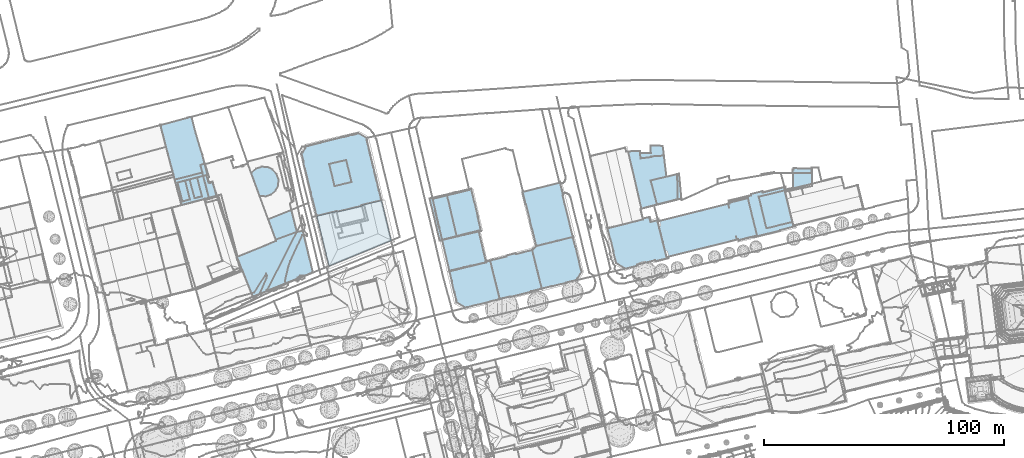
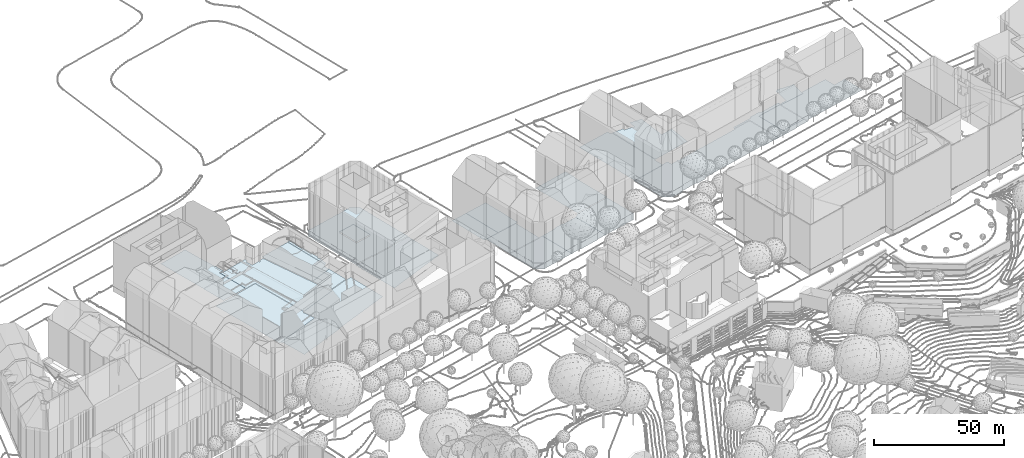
# Not in any storey, part 17 of 494: 16 footings.
"""IFC2X3 model written with IfcOpenShell, lengths in metres."""

from ifc_helpers import new_model, si_unit, frame, origin_with_axes, place, context, subcontext, project, faceted_brep, element, save


model = new_model("IFC2X3")

# Units and contexts
model_context = context("Model", 3, precision=1e-05, world=origin_with_axes())
body_context = subcontext(model_context, "Body", "Model", "MODEL_VIEW")
ifc_project = project(units=[si_unit("AREAUNIT", "SQUARE_METRE"), si_unit("LENGTHUNIT", "METRE")], contexts=[model_context])

# Footings
footing_1_placement = place(None, frame((230.2577320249, 452.7801160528, 539.0125), z_axis=(0.0, 0.0, 1.0), x_axis=(1.0, 0.0, 0.0)))
element("IfcFooting", 1, at=footing_1_placement, Name="Floor 0", PredefinedType="STRIP_FOOTING", context=body_context, shape_type="Brep", body=[
    faceted_brep([(33.3600000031, -19.259800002, 0.0), (27.5240000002, -20.6680000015, 0.0), (32.3320000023, -15.0274000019, 0.0), (31.0420000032, -9.7158000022, 0.0), (30.7380000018, -8.884800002, 0.0), (30.8360000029, -8.8672000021, 0.0), (30.2910000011, -6.6231000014, 0.0), (29.9910000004, -5.7754000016, 0.0), (30.0790000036, -5.7529000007, 0.0), (29.2390000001, -2.7109999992, 0.0), (29.3340000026, -2.688500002, 0.0), (29.5420000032, -3.5439999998, 0.0), (31.5860000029, -11.9561000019, 0.0), (31.7940000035, -12.8145000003, 0.0), (31.4900000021, -11.9824000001, 0.0), (32.2300000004, -15.0487999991, 0.0), (31.6970000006, -12.8408000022, 0.0), (25.1650000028, -21.2373000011, 0.0), (20.9200000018, -11.6895000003, 0.0), (30.200000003, -6.6464999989, 0.0), (30.9450000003, -9.751000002, 0.0), (18.75, -2.4805000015, 0.0), (29.4420000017, -3.5713, 0.0), (28.7950000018, -0.4677999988, 0.0), (28.4730000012, 0.4550999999, 0.0), (28.5660000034, 0.4765000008, 0.0), (28.7090000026, -0.4902000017, 0.0), (27.9520000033, 2.5918000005, 0.0), (28.0450000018, 2.6191000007, 0.0), (27.756000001, 3.4463, 0.0), (27.2200000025, 5.6796999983, 0.0), (27.074000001, 6.6162, 0.0), (27.2960000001, 5.6992000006, 0.0), (22.893000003, 8.3104999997, 0.0), (27.8370000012, 3.4765000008, 0.0), (23.6950000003, 8.6816000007, 0.0), (20.6920000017, 7.7694999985, 0.0), (17.5990000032, 7.0155999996, 0.0), (19.8400000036, 7.5683000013, 0.0), (20.6500000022, 7.9316000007, 0.0), (22.8540000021, 8.4745999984, 0.0), (19.8040000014, 7.7225999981, 0.0), (16.5780000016, 6.927699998, 0.0), (17.5710000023, 7.1728000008, 0.0), (25.2350000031, -21.5371000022, 0.0), (14.745000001, -24.0771999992, 0.0), (14.6650000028, -23.7774000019, 0.0), (12.2280000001, -24.3720999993, 0.0), (13.8490000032, -13.3555000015, 0.0), (6.3790000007, -25.7998000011, 0.0), (5.5080000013, -22.1737999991, 0.0), (4.6690000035, -18.6816999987, 0.0), (16.5880000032, 6.8554999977, 0.0), (11.6790000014, -4.1464999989, 0.0), (1.6220000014, -6.2890999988, 0.0), (0.9550000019, -2.9834000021, 0.0), (4.0050000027, -16.0331999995, 0.0), (5.1450000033, 3.932599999, 0.0), (4.563000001, -18.7061000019, 0.0), (3.9150000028, -16.066399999, 0.0), (0.8920000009, -3.7793000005, 0.0), (0.932, -3.7626999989, 0.0), (0.7440000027, -3.0401000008, 0.0), (1.5210000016, -6.313500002, 0.0), (8.2260000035, 4.682599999, 0.0), (9.126000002, 5.0029000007, 0.0), (5.9920000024, 4.1405999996, 0.0), (8.1790000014, 4.865199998, 0.0), (5.943, 4.3242000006, 0.0), (9.1020000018, 5.0918000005, 0.0), (5.0940000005, 4.1191000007, 0.0), (0.5960000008, 0.5975999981, 0.0), (0.0, 0.0, 0.0), (0.4340000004, 0.7080000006, 0.0), (1.7870000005, 2.5702999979, 0.0), (0.3900000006, -0.7080000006, 0.0), (0.193, -0.759800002, 0.0), (2.8790000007, 3.3896000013, 0.0), (2.0240000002, 3.378899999, 0.0), (2.8370000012, 3.5751999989, 0.0), (1.6120000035, 2.682599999, 0.0), (13.8490000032, -13.3555000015, 0.497), (18.75, -2.4805000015, 0.497), (20.9200000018, -11.6895000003, 0.497), (11.6790000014, -4.1464999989, 0.497)], [[[0, 1, 2]], [[3, 4, 5]], [[6, 7, 8]], [[9, 10, 11]], [[12, 13, 14]], [[15, 1, 16]], [[14, 13, 16]], [[17, 18, 1]], [[16, 18, 14]], [[2, 1, 15]], [[18, 16, 1]], [[19, 7, 6]], [[19, 18, 7]], [[20, 18, 4]], [[3, 20, 4]], [[21, 9, 22]], [[18, 19, 4]], [[14, 18, 20]], [[22, 9, 11]], [[7, 21, 22]], [[23, 24, 25]], [[23, 26, 24]], [[21, 27, 24]], [[28, 27, 29]], [[30, 31, 32]], [[30, 29, 33]], [[28, 29, 34]], [[31, 30, 35]], [[33, 29, 36]], [[21, 37, 38]], [[35, 30, 33]], [[21, 24, 26]], [[21, 38, 36]], [[21, 29, 27]], [[26, 9, 21]], [[36, 38, 39]], [[40, 35, 33]], [[38, 41, 39]], [[42, 43, 37]], [[29, 21, 36]], [[44, 45, 17]], [[17, 45, 46]], [[46, 47, 48]], [[47, 49, 50]], [[47, 50, 51]], [[18, 17, 46]], [[37, 21, 52]], [[21, 53, 52]], [[54, 55, 53]], [[18, 46, 48]], [[56, 48, 51]], [[56, 53, 48]], [[51, 48, 47]], [[53, 55, 57]], [[58, 59, 51]], [[51, 59, 56]], [[60, 61, 54]], [[62, 55, 61]], [[53, 56, 54]], [[54, 63, 60]], [[55, 54, 61]], [[53, 64, 65]], [[57, 66, 53]], [[64, 53, 66]], [[64, 67, 65]], [[52, 53, 65]], [[66, 57, 68]], [[37, 52, 42]], [[65, 67, 69]], [[70, 68, 57]], [[71, 72, 73]], [[74, 55, 71]], [[71, 75, 72]], [[75, 76, 72]], [[77, 78, 79]], [[77, 74, 78]], [[74, 80, 78]], [[74, 77, 55]], [[57, 55, 77]], [[71, 55, 75]], [[7, 18, 21]], [[81, 82, 83]], [[82, 81, 84]]]),
])
footing_2_placement = place(None, frame((236.6347320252, 426.9871160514, 538.7695), z_axis=(0.0, 0.0, 1.0), x_axis=(1.0, 0.0, 0.0)))
element("IfcFooting", 2, at=footing_2_placement, Name="Floor 0", PredefinedType="STRIP_FOOTING", context=body_context, shape_type="Brep", body=[
    faceted_brep([(2.4130000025, -9.6649999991, 0.0), (22.5100000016, 5.4530999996, 0.0), (26.9830000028, 6.5331999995, 0.0), (18.8580000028, 4.2558999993, 0.0), (2.7730000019, -11.1132999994, 0.0), (31.0420000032, -10.177699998, 0.0), (18.7880000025, 4.5557000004, 0.0), (8.3680000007, 1.7158000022, 0.0), (1.1799999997, -4.5888999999, 0.0), (5.0970000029, 1.2393000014, 0.0), (8.2880000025, 2.0155999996, 0.0), (1.1440000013, -4.5946999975, 0.0), (0.1210000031, -0.2899999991, 0.0), (0.0, 0.0, 0.0), (0.0730000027, -0.3017999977, 0.0), (8.6070000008, -19.3710999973, 0.0), (4.256000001, -17.2236000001, 0.0), (3.8969999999, -15.7313999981, 0.0), (4.2070000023, -17.2196999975, 0.0), (3.8450000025, -15.7606999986, 0.0), (2.7330000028, -11.1210999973, 0.0), (2.376000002, -9.6816000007, 0.0), (5.1359999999, -20.7929999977, 0.0)], [[[0, 1, 2]], [[0, 3, 1]], [[4, 2, 5]], [[6, 1, 3]], [[7, 3, 8]], [[7, 9, 10]], [[7, 11, 9]], [[12, 9, 11]], [[13, 12, 14]], [[13, 9, 12]], [[7, 8, 11]], [[5, 15, 16]], [[17, 18, 19]], [[18, 17, 16]], [[17, 5, 16]], [[5, 17, 4]], [[0, 8, 3]], [[20, 0, 4]], [[0, 20, 21]], [[2, 4, 0]], [[22, 16, 15]]]),
])
footing_3_placement = place(None, frame((283.6617320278, 434.311316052, 538.7775), z_axis=(0.0, 0.0, 1.0), x_axis=(1.0, 0.0, 0.0)))
element("IfcFooting", 3, at=footing_3_placement, Name="Floor 0", PredefinedType="STRIP_FOOTING", context=body_context, shape_type="Brep", body=[
    faceted_brep([(11.3189999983, -15.8486000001, 26.1405), (11.318, -15.8495999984, 26.1405), (5.1349999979, -16.8486000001, 21.9429), (0.0, 0.0, 0.0), (7.1600000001, 1.6689999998, 0.0), (4.1699999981, -17.5546999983, 0.0), (11.318, -15.8495999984, 0.0), (11.3189999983, -15.8486000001, 0.0), (11.3239999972, -15.8759000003, 0.0)], [[[0, 1, 2]], [[3, 4, 5]], [[4, 6, 5]], [[6, 7, 8]], [[8, 5, 6]]]),
])
footing_4_placement = place(None, frame((283.6617320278, 434.311316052, 538.7775), z_axis=(0.0, 0.0, 1.0), x_axis=(1.0, 0.0, 0.0)))
element("IfcFooting", 4, at=footing_4_placement, Name="Floor 1", PredefinedType="STRIP_FOOTING", context=body_context, shape_type="Brep", body=[
    faceted_brep([(21.1380000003, -13.5848999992, 0.0), (20.9780000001, -11.8506000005, 0.0), (21.3729999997, -13.5253999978, 0.0), (14.7309999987, -15.0731999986, 0.0), (20.4230000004, -9.5, 0.0), (20.481999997, -13.75, 0.0), (19.9839999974, -7.6396000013, 0.0), (20.068, -7.615199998, 0.0), (18.6429999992, -1.8359000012, 0.0), (18.7249999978, -1.8104999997, 0.0), (18.0579999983, 0.7032000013, 0.0), (10.8019999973, 2.5371000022, 0.0), (17.4519999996, 3.3311000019, 0.0), (16.4169999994, 3.8662, 0.0), (9.9450000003, 2.3330000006, 0.0), (14.1519999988, -15.2157999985, 0.0), (11.3209999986, -15.8486000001, 0.0), (11.3239999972, -15.8759000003, 0.0), (11.318, -15.8495999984, 0.0), (7.1600000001, 1.6689999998, 0.0), (17.2839999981, 4.0625, 0.0), (14.2960000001, -15.1748000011, 0.0)], [[[0, 1, 2]], [[1, 3, 4]], [[1, 0, 5]], [[4, 3, 6]], [[7, 8, 9]], [[7, 6, 8]], [[10, 8, 11]], [[12, 10, 13]], [[6, 14, 8]], [[1, 5, 3]], [[15, 14, 6]], [[15, 16, 14]], [[16, 15, 17]], [[16, 18, 19]], [[13, 20, 12]], [[21, 6, 3]], [[11, 13, 10]], [[15, 6, 21]], [[11, 8, 14]], [[19, 14, 16]]]),
])
footing_5_placement = place(None, frame((308.8567320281, 408.4549160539, 538.5095), z_axis=(0.0, 0.0, 1.0), x_axis=(1.0, 0.0, 0.0)))
element("IfcFooting", 5, at=footing_5_placement, Name="Floor 0", PredefinedType="STRIP_FOOTING", context=body_context, shape_type="Brep", body=[
    faceted_brep([(10.5529999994, 3.0643999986, 0.0), (10.6609999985, 2.6659999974, 0.0), (7.6030000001, 2.3261999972, 0.0), (6.7300000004, 2.047799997, 0.0), (6.7170000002, 2.1034999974, 0.0), (19.6349999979, -4.3057000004, -0.0001), (18.9299999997, -1.4707000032, -0.0001), (13.9759999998, 3.5067999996, 0.0), (6.8149999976, 1.7011999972, 0.0), (12.5759999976, -14.1123000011, -0.0001), (17.4709999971, 4.3944999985, 0.0), (4.0219999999, 1.0028999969, 0.0), (1.0329999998, -4.1513999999, 0.0), (1.2280000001, 0.3055999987, 0.0), (1.5929999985, -6.4024000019, 0.0), (1.8229999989, -7.3281000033, 0.0), (2.3619999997, -9.4942000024, -0.0001), (0.0, 0.0, 0.0), (19.8399999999, -5.130900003, -0.0001), (21.1730000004, -10.4922000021, -0.0001), (19.1270000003, -12.2373000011, -0.0001), (20.5169999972, -7.8545000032, -0.0001), (21.0849999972, -11.746100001, -0.0001), (21.481999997, -11.7373000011, -0.0001), (16.9329999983, -12.7871000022, -0.0001), (16.992999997, -13.0195000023, -0.0001), (16.1469999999, -13.2285000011, -0.0001), (21.118999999, -11.8350000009, -0.0001), (6.0240000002, -15.4932000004, -0.0001), (3.7289999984, -14.9922000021, -0.0001), (8.5139999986, -14.8770000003, -0.0001), (4.3420000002, -15.9101999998, -0.0001), (4.0009999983, -16.0850000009, -0.0001), (8.9059999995, -15.0215000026, -0.0001), (8.568, -15.1055000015, -0.0001), (4.3649999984, -15.996100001, -0.0001)], [[[0, 1, 2]], [[3, 4, 2]], [[5, 1, 6]], [[1, 7, 6]], [[8, 1, 9]], [[1, 8, 2]], [[7, 10, 6]], [[9, 1, 5]], [[3, 2, 8]], [[11, 12, 13]], [[14, 11, 8]], [[15, 14, 8]], [[15, 9, 16]], [[17, 13, 12]], [[12, 11, 14]], [[15, 8, 9]], [[18, 9, 5]], [[19, 20, 21]], [[20, 19, 22]], [[23, 22, 19]], [[20, 24, 21]], [[25, 26, 24]], [[18, 24, 26]], [[22, 23, 27]], [[9, 18, 26]], [[28, 29, 30]], [[28, 31, 29]], [[31, 32, 29]], [[16, 30, 29]], [[30, 33, 34]], [[32, 31, 35]], [[30, 9, 33]], [[30, 16, 9]], [[24, 18, 21]]]),
])
footing_6_placement = place(None, frame((291.8077320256, 404.2273160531, 538.5095), z_axis=(0.0, 0.0, 1.0), x_axis=(1.0, 0.0, 0.0)))
element("IfcFooting", 6, at=footing_6_placement, Name="Floor 0", PredefinedType="STRIP_FOOTING", context=body_context, shape_type="Brep", body=[
    faceted_brep([(0.2239999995, -0.6279000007, 0.0), (0.0650000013, -0.2802000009, 0.0), (0.0, 0.0, 0.0), (2.2900000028, 0.5234999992, 0.0), (0.1520000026, -0.6493999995, 0.0), (1.0940000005, -4.2490000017, 0.0), (2.0749999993, -8.807599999, 0.0), (7.3910000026, -15.1757000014, -0.0002), (6.0460000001, 1.3828999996, 0.0), (6.0510000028, 1.3838, 0.0), (11.0260000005, -14.2635999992, 0.0), (6.2580000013, 1.4307000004, 0.0), (1.001000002, -4.2822000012, 0.0), (2.1570000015, -8.7890000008, 0.0), (3.0030000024, -12.8662, 0.0), (2.9180000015, -12.4959999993, 0.0), (3.0, -12.4677000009, 0.0), (3.0760000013, -13.1894000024, 0.0), (4.7100000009, -14.1922999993, -0.0002), (6.7239999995, -15.4277000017, -0.0002), (7.4020000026, -15.2635999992, -0.0002), (6.2960000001, 1.4395000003, 0.0), (15.3280000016, 3.5078999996, 0.0), (11.0580000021, -14.3377999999, -0.0002), (9.0769999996, 2.0762000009, 0.0), (9.063000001, 2.0722999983, 0.0), (15.813000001, 3.7529999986, 0.0), (15.3000000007, 3.6279999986, 0.0), (8.7360000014, 1.9980999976, 0.0), (17.0490000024, 4.2276000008, 0.0), (15.7900000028, 3.9122000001, 0.0), (18.6420000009, -2.1748000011, 0.0), (18.0820000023, 0.0762000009, 0.0), (18.8720000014, -3.1005000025, 0.0), (17.0069999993, -12.7675000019, -0.0001), (19.4959999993, -5.6084000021, -0.0001), (20.6480000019, -11.8671000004, -0.0001), (17.0270000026, -12.8465999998, -0.0001), (20.7900000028, -10.8104999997, -0.0001), (21.0500000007, -11.8574000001, -0.0001), (20.6860000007, -11.946200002, -0.0001)], [[[0, 1, 2]], [[2, 3, 0]], [[0, 4, 1]], [[5, 3, 6]], [[7, 3, 8]], [[9, 10, 8]], [[8, 10, 7]], [[10, 9, 11]], [[5, 0, 3]], [[5, 6, 12]], [[3, 13, 6]], [[14, 15, 16]], [[17, 14, 16]], [[18, 16, 13]], [[13, 7, 18]], [[7, 19, 18]], [[18, 17, 16]], [[7, 20, 19]], [[7, 13, 3]], [[11, 21, 10]], [[22, 23, 24]], [[24, 23, 25]], [[26, 22, 27]], [[28, 25, 23]], [[29, 26, 30]], [[31, 22, 32]], [[26, 29, 32]], [[22, 26, 32]], [[31, 33, 22]], [[34, 35, 36]], [[37, 23, 34]], [[22, 34, 23]], [[10, 28, 23]], [[38, 36, 35]], [[39, 40, 36]], [[38, 39, 36]], [[34, 33, 35]], [[34, 22, 33]], [[10, 21, 28]]]),
])
footing_7_placement = place(None, frame((322.3647320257, 436.9627160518, 538.8935), z_axis=(0.0, 0.0, 1.0), x_axis=(1.0, 0.0, 0.0)))
element("IfcFooting", 7, at=footing_7_placement, Name="Floor 0", PredefinedType="STRIP_FOOTING", context=body_context, shape_type="Brep", body=[
    faceted_brep([(16.2490000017, 1.0243999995, -0.0001), (9.0160000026, 2.2666000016, -0.0001), (15.5370000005, 3.9061999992, -0.0001), (1.432, -5.177699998, -0.0001), (6.2010000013, 1.558600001, -0.0001), (16.6009999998, -1.4043000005, -0.0001), (20.7660000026, -18.3398000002, -0.0001), (16.8340000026, -1.3456999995, -0.0001), (1.2719999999, -5.2040999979, -0.0001), (0.0, 0.0, 0.0), (3.0940000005, -11.9248000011, -0.0001), (14.6490000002, -20.2509999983, -0.0001), (20.9400000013, -18.6942999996, -0.0001), (11.8310000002, -20.9481999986, -0.0001), (20.8540000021, -18.3202999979, -0.0001), (3.0170000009, -11.9463, -0.0001), (3.887000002, -15.4481999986, -0.0001), (3.9580000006, -15.436499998, -0.0001), (5.693, -22.4668000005, -0.0001)], [[[0, 1, 2]], [[3, 4, 1]], [[0, 5, 1]], [[1, 5, 6]], [[5, 0, 7]], [[1, 6, 3]], [[8, 9, 4]], [[4, 3, 8]], [[3, 6, 10]], [[11, 10, 6]], [[11, 6, 12]], [[11, 13, 10]], [[14, 12, 6]], [[15, 10, 13]], [[16, 15, 17]], [[13, 17, 15]], [[18, 17, 13]]]),
])
footing_8_placement = place(None, frame((288.8057320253, 417.0477160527, 538.6815), z_axis=(0.0, 0.0, 1.0), x_axis=(1.0, 0.0, 0.0)))
element("IfcFooting", 8, at=footing_8_placement, Name="Floor 0", PredefinedType="STRIP_FOOTING", context=body_context, shape_type="Brep", body=[
    faceted_brep([(18.2660000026, -9.0390999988, -0.0001), (9.1500000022, 2.0956999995, 0.0), (15.3370000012, 3.5135999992, 0.0), (6.3619999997, 1.4580000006, 0.0), (3.0670000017, -12.6807000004, 0.0), (9.3030000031, -11.379900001, 0.0), (0.0, 0.0, 0.0), (0.1449999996, -0.2714999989, 0.0), (0.075000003, -0.2862000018, 0.0), (18.7920000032, -8.9072999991, -0.0001), (18.8150000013, -9.067400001, -0.0001), (18.3020000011, -9.192400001, -0.0001), (12.0899999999, -10.7422000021, -0.0001), (18.3300000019, -9.3125, -0.0001), (3.0020000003, -12.8233000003, 0.0), (2.9810000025, -12.7334000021, 0.0)], [[[0, 1, 2]], [[0, 3, 1]], [[4, 0, 5]], [[6, 7, 8]], [[6, 3, 7]], [[7, 3, 4]], [[0, 4, 3]], [[9, 10, 0]], [[11, 12, 0]], [[11, 0, 10]], [[11, 13, 12]], [[4, 14, 15]], [[14, 4, 5]], [[5, 0, 12]]]),
])
footing_9_placement = place(None, frame((326.3277320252, 412.8494160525, 538.5095), z_axis=(0.0, 0.0, 1.0), x_axis=(1.0, 0.0, 0.0)))
element("IfcFooting", 9, at=footing_9_placement, Name="Floor 0", PredefinedType="STRIP_FOOTING", context=body_context, shape_type="Brep", body=[
    faceted_brep([(1.4590000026, -5.8652000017, -0.0001), (7.6760000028, 3.1171999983, 0.0), (2.1640000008, -8.7001999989, -0.0001), (2.3690000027, -9.5254000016, -0.0001), (7.9780000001, -15.0692999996, -0.0001), (3.0460000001, -12.2490000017, -0.0001), (14.0, -13.6640000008, -0.0001), (0.0, 0.0, 0.0), (0.5190000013, 0.4941999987, 0.0), (4.2250000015, 2.2637000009, 0.0), (7.4759999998, 3.0683999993, 0.0), (1.7300000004, 1.6464999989, 0.0), (13.9890000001, -13.5839999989, -0.0001), (4.3540000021, -15.9589999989, -0.0001), (4.012000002, -16.1328000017, -0.0001), (3.7020000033, -14.8867000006, -0.0001), (4.3770000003, -16.0507999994, -0.0001), (8.0090000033, -15.1504000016, -0.0001), (10.6460000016, 3.8526000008, -0.0001), (19.4560000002, -4.5868999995, -0.0001), (10.2670000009, 3.7578000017, -0.0001), (16.9869999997, 5.0166000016, -0.0001), (17.4060000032, 3.3427999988, -0.0001), (9.9140000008, 3.6708999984, 0.0), (16.9830000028, 5.4199000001, -0.0001), (17.8969999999, 1.3828000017, -0.0001), (17.0620000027, 5.0449000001, -0.0001), (17.9869999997, 1.3975000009, -0.0001), (19.3900000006, -4.6024999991, -0.0001), (20.2939999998, -8.2529000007, -0.0001), (18.6440000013, -12.0839999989, -0.0001), (17.6180000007, -12.6787, -0.0001), (18.3960000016, -12.496100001, -0.0001), (18.3360000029, -12.5956999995, -0.0001), (17.6500000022, -12.7685000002, -0.0001), (20.5530000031, -8.9160000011, -0.0001), (20.5439999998, -8.8817999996, -0.0001), (20.3780000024, -8.2148000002, -0.0001)], [[[0, 1, 2]], [[3, 4, 5]], [[6, 3, 2]], [[7, 8, 0]], [[0, 9, 10]], [[0, 11, 9]], [[1, 0, 10]], [[11, 0, 8]], [[2, 12, 6]], [[13, 14, 15]], [[13, 16, 14]], [[13, 15, 4]], [[15, 5, 4]], [[17, 4, 6]], [[4, 3, 6]], [[1, 12, 2]], [[18, 19, 20]], [[18, 21, 22]], [[20, 19, 23]], [[24, 21, 18]], [[25, 18, 22]], [[26, 21, 24]], [[27, 19, 25]], [[19, 18, 25]], [[28, 1, 19]], [[29, 30, 31]], [[31, 12, 28]], [[30, 32, 31]], [[33, 34, 31]], [[31, 32, 33]], [[35, 30, 36]], [[29, 37, 36]], [[30, 29, 36]], [[29, 31, 28]], [[28, 12, 1]], [[23, 19, 1]]]),
])
footing_10_placement = place(None, frame((350.3717320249, 451.8328160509, 539.2744), z_axis=(0.0, 0.0, 1.0), x_axis=(1.0, 0.0, 0.0)))
element("IfcFooting", 10, at=footing_10_placement, Name="Floor 0", PredefinedType="STRIP_FOOTING", context=body_context, shape_type="Brep", body=[
    faceted_brep([(20.6960000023, 2.0938000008, 0.095), (20.8680000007, 1.375, 0.095), (15.875, 2.0205000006, 0.095), (21.3670000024, -21.7636999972, 0.095), (31.7920000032, -8.5419999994, 0.095), (20.8850000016, 2.0957000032, 0.095), (25.307, 1.2930000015, 0.095), (25.1130000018, 3.630900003, 0.095), (30.2460000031, 4.3076000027, 0.095), (30.7310000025, 0.2763999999, 0.095), (25.1490000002, 4.4883000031, 0.095), (36.3470000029, -17.8378999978, 0.0949), (36.2890000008, -7.4042999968, 0.095), (20.6870000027, 2.1709000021, 0.095), (0.1580000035, -0.3807999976, 0.0), (0.0950000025, -0.3954999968, 0.0), (0.0, 0.0, 0.0), (6.6030000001, 1.6152000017, 0.0), (7.3410000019, -29.5145999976, 0.0), (10.568, 2.5850000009, 0.0), (14.6540000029, 3.5850000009, 0.0), (15.0380000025, 2.0215000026, 0.0), (20.9350000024, -21.9130999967, 0.0), (21.376000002, -21.8007999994, 0.0), (15.875, 2.0215000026, 0.0), (13.5390000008, -28.4169999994, 0.0), (7.2940000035, -30.003899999, 0.0), (7.1830000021, -29.5585999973, 0.0), (22.0300000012, -26.2577999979, 0.0), (17.4960000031, -27.4111000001, 0.0), (36.2890000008, -7.4042999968, 0.201), (37.5200000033, -12.4520999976, 0.2009), (36.3470000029, -17.8378999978, 0.2009), (27.8670000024, -20.1611000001, 0.2009), (27.8430000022, -20.0673999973, 0.2009), (38.0050000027, -17.5975999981, 0.2009), (37.0890000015, -7.1639999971, 0.201), (37.0990000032, -7.994099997, 0.201), (37.0260000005, -7.2177999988, 0.201), (37.0260000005, -7.1796999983, 0.201)], [[[0, 1, 2]], [[3, 2, 1]], [[3, 1, 4]], [[5, 1, 0]], [[6, 7, 8]], [[8, 9, 6]], [[7, 10, 8]], [[4, 6, 9]], [[11, 4, 12]], [[3, 4, 11]], [[1, 6, 4]], [[13, 0, 2]], [[14, 15, 16]], [[16, 17, 14]], [[17, 18, 14]], [[18, 17, 19]], [[20, 21, 19]], [[22, 18, 21]], [[23, 22, 24]], [[22, 21, 24]], [[22, 25, 18]], [[18, 25, 26]], [[26, 27, 18]], [[22, 28, 29]], [[25, 22, 29]], [[19, 21, 18]], [[30, 31, 32]], [[32, 33, 34]], [[32, 35, 33]], [[36, 37, 38]], [[38, 39, 36]], [[30, 37, 31]], [[32, 31, 35]], [[30, 38, 37]]]),
])
footing_11_placement = place(None, frame((378.372732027, 425.1658160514, 539.4553), z_axis=(0.0, 0.0, 1.0), x_axis=(1.0, 0.0, 0.0)))
element("IfcFooting", 11, at=footing_11_placement, Name="Floor 0", PredefinedType="STRIP_FOOTING", context=body_context, shape_type="Brep", body=[
    faceted_brep([(40.0529999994, -6.9657999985, 0.163), (41.4809999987, -6.2987999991, 0.163), (51.0260000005, -4.2675999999, 0.163), (33.7300000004, -8.1952999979, 0.163), (40.0020000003, -6.7577999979, 0.163), (33.8370000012, -8.3134999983, 0.163), (33.7639999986, -8.3319999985, 0.163), (40.055999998, -0.4716999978, 0.163), (45.3929999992, -3.2949000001, 0.163), (50.9609999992, -4.0370999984, 0.163), (57.0370000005, -2.5409999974, 0.163), (57.1889999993, -2.4569999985, 0.163), (57.2010000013, -2.503899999, 0.163), (56.7010000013, -2.5761999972, 0.163), (56.2239999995, -0.6464999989, 0.163), (56.9820000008, -2.5077999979, 0.163), (56.7109999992, -2.6162, 0.163), (37.6860000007, 9.2168000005, 0.163), (42.1889999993, 9.8095999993, 0.163), (39.5830000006, 1.4590000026, 0.163), (29.8159999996, 8.1328000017, 0.163), (29.9499999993, 7.3252000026, 0.163), (29.7520000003, 8.1172000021, 0.163), (39.0199999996, 10.3516000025, 0.163), (38.8759999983, 10.9365000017, 0.163), (43.8299999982, 11.5479000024, 0.163), (52.9899999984, 12.4521999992, 0.163), (52.870000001, 13.8330000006, 0.163), (53.1550000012, 12.4912, 0.163), (49.2190000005, 12.9141000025, 0.163), (52.6600000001, 13.7871000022, 0.163), (43.6860000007, 12.1240000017, 0.163), (0.0, 0.0, 0.0), (0.5309999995, -0.3066000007, 0.0), (1.818, -7.2773000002, 0.0), (0.4160000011, 0.1016000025, 0.0), (2.4180000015, -9.6766999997, 0.0), (33.6479999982, -7.8662, 0.0), (4.300999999, -15.177699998, 0.0), (4.3539999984, -15.378899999, 0.0), (3.8720000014, -15.4970999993, 0.0), (39.6349999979, 1.2451000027, 0.0), (30.0179999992, 7.0527999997, 0.0), (29.9499999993, 7.3252000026, 0.0), (37.6860000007, 9.2168000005, 0.0), (41.4809999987, -6.2987999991, 0.0), (33.7300000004, -8.1952999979, 0.0), (40.055999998, -0.4716999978, 0.0), (55.1570000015, 3.6768000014, 0.132), (42.188000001, 9.8095999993, 0.132), (53.7670000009, 9.3027999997, 0.132), (52.9899999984, 12.4521999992, 0.132), (56.2250000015, -0.6464999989, 0.132), (45.3929999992, -3.2949000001, 0.132)], [[[0, 1, 2]], [[3, 4, 5]], [[5, 6, 3]], [[7, 8, 1]], [[4, 3, 1]], [[8, 2, 1]], [[1, 0, 4]], [[8, 9, 2]], [[10, 11, 12]], [[13, 9, 14]], [[11, 10, 15]], [[16, 13, 15]], [[10, 16, 15]], [[16, 9, 13]], [[8, 14, 9]], [[8, 17, 18]], [[8, 19, 17]], [[8, 7, 19]], [[20, 17, 21]], [[21, 22, 20]], [[17, 20, 23]], [[18, 23, 24]], [[18, 17, 23]], [[24, 25, 18]], [[26, 27, 28]], [[27, 26, 29]], [[29, 18, 25]], [[29, 30, 27]], [[29, 26, 18]], [[31, 25, 24]], [[32, 33, 34]], [[33, 32, 35]], [[36, 37, 38]], [[38, 39, 40]], [[40, 36, 38]], [[36, 34, 41]], [[42, 34, 33]], [[42, 41, 34]], [[43, 44, 42]], [[41, 42, 44]], [[37, 45, 46]], [[47, 45, 37]], [[36, 47, 37]], [[47, 36, 41]], [[48, 49, 50]], [[50, 49, 51]], [[52, 53, 48]], [[48, 53, 49]]]),
])
footing_12_placement = place(None, frame((357.6657320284, 421.8289160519, 539.1994), z_axis=(0.0, 0.0, 1.0), x_axis=(1.0, 0.0, 0.0)))
element("IfcFooting", 12, at=footing_12_placement, Name="Floor 0", PredefinedType="STRIP_FOOTING", context=body_context, shape_type="Brep", body=[
    faceted_brep([(24.5169999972, -11.9100999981, -0.0001), (19.9179999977, -13.6268999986, -0.0001), (24.3809999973, -11.365199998, -0.0001), (23.9299999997, -9.5625, -0.0001), (19.8239999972, -13.248999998, -0.0001), (23.0449999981, -6.0185000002, -0.0001), (24.6529999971, -12.4550999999, -0.0001), (12.3529999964, -15.1123000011, -0.0001), (22.9439999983, -5.6141999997, -0.0001), (22.1999999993, -2.6347999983, 0.0), (17.8849999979, 2.6768000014, 0.0), (21.4959999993, 0.183600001, 0.0), (10.4019999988, 2.6436000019, 0.0), (20.6909999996, 3.4024000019, 0.0), (20.9559999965, 2.3438000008, 0.0), (17.4009999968, 4.7617000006, 0.0), (17.5659999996, 4.1074000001, 0.0), (17.5269999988, 4.0967000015, 0.0), (14.7359999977, 3.746100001, 0.0), (17.7619999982, 3.1689999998, 0.0), (14.6539999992, 4.072300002, 0.0), (17.2089999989, 4.7138999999, 0.0), (7.8339999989, -16.6503999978, -0.0001), (2.3279999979, -9.4120999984, 0.0), (12.4469999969, -15.490199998, -0.0001), (5.3169999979, -15.5654000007, -0.0001), (7.1589999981, -16.7118999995, -0.0001), (3.4959999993, -14.1338, 0.0), (3.5829999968, -14.4844000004, 0.0), (7.2819999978, -16.7890999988, -0.0001), (2.4519999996, -9.3847999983, 0.0), (1.2679999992, -4.5654000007, 0.0), (3.6309999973, 0.9228999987, 0.0), (6.193, 1.5751999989, 0.0), (0.5279999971, -2.1182000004, 0.0), (6.7789999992, 1.7226999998, 0.0), (1.1439999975, -4.5868999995, 0.0), (0.0, 0.0, 0.0)], [[[0, 1, 2]], [[3, 2, 1]], [[3, 4, 5]], [[0, 6, 1]], [[4, 7, 5]], [[7, 8, 5]], [[7, 9, 8]], [[9, 10, 11]], [[10, 9, 12]], [[3, 1, 4]], [[10, 13, 14]], [[11, 10, 14]], [[15, 16, 17]], [[18, 17, 19]], [[19, 10, 18]], [[18, 20, 21]], [[21, 17, 18]], [[10, 12, 18]], [[21, 15, 17]], [[22, 23, 7]], [[24, 22, 7]], [[23, 22, 25]], [[22, 26, 25]], [[27, 23, 25]], [[25, 28, 27]], [[22, 29, 26]], [[7, 23, 30]], [[31, 32, 33]], [[31, 34, 32]], [[12, 31, 35]], [[35, 31, 33]], [[12, 30, 31]], [[34, 31, 36]], [[34, 37, 32]], [[7, 30, 12]], [[12, 9, 7]]]),
])
footing_13_placement = place(None, frame((431.242732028, 438.998816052, 539.6453), z_axis=(0.0, 0.0, 1.0), x_axis=(1.0, 0.0, 0.0)))
element("IfcFooting", 13, at=footing_13_placement, Name="Floor 0", PredefinedType="STRIP_FOOTING", context=body_context, shape_type="Brep", body=[
    faceted_brep([(32.686999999, -9.3535000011, 0.1319), (32.5539999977, -8.8827999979, 0.1319), (32.7599999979, -9.3348999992, 0.1319), (31.3829999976, -3.6981999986, 0.1319), (30.2819999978, 0.8027999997, 0.132), (24.9079999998, -0.5839999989, 0.132), (0.9609999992, -4.7890000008, 0.132), (24.5299999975, 0.9746000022, 0.132), (11.5689999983, 0.4463, 0.132), (22.436999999, 4.0762000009, 0.132), (23.7479999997, 4.2061000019, 0.132), (2.4399999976, -10.7762999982, 0.132), (4.2009999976, -15.8172999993, 0.132), (3.8310000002, -16.4090999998, 0.132), (4.3189999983, -16.2899999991, 0.132), (11.5669999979, 1.4180000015, 0.132), (0.1199999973, -1.3817999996, 0.132), (0.3969999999, -1.8662, 0.132), (0.2850000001, -1.3418000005, 0.132), (0.0, 0.0, 0.0), (0.4780000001, -1.0146000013, 0.0), (0.3969999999, -1.8662, 0.0), (3.5729999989, -0.254900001, 0.0), (0.2029999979, 0.0439999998, 0.0), (11.5689999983, 0.4463, 0.0), (3.443, 7.2265999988, 0.0), (3.6289999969, 5.9063000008, 0.0), (3.3990000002, 5.9052999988, 0.0), (11.2989999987, 8.0850000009, 0.0), (11.555999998, 8.0811000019, 0.0), (11.2969999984, 7.629900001, 0.0), (3.8429999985, 7.2149000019, 0.0), (3.862999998, 7.8575000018, 0.0)], [[[0, 1, 2]], [[1, 3, 2]], [[4, 3, 5]], [[5, 6, 7]], [[7, 8, 9]], [[9, 10, 7]], [[3, 11, 5]], [[11, 3, 1]], [[12, 11, 1]], [[13, 11, 12]], [[12, 14, 13]], [[5, 11, 6]], [[9, 8, 15]], [[6, 16, 17]], [[17, 8, 6]], [[16, 18, 17]], [[6, 8, 7]], [[19, 20, 21]], [[22, 21, 20]], [[19, 23, 20]], [[22, 24, 21]], [[25, 26, 27]], [[28, 29, 30]], [[31, 30, 26]], [[25, 31, 26]], [[24, 26, 30]], [[30, 29, 24]], [[32, 30, 31]], [[24, 22, 26]]]),
])
footing_14_placement = place(None, frame((171.6827320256, 464.931416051, 544.4901), z_axis=(0.0, 0.0, 1.0), x_axis=(1.0, 0.0, 0.0)))
element("IfcFooting", 14, at=footing_14_placement, Name="Floor 0", PredefinedType="STRIP_FOOTING", context=body_context, shape_type="Brep", body=[
    faceted_brep([(32.1319999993, -54.8358999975, -5.9496), (31.6400000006, -55.0361000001, -5.9496), (25.3049999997, -29.0145999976, -5.9495), (7.3910000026, -45.0252999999, -5.9495), (4.6040000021, -34.4872999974, -5.9495), (10.7540000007, -57.7459999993, -5.9495), (33.6090000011, -60.4188999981, -5.9496), (14.1190000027, -68.0711999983, -5.9496), (14.1380000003, -68.1405999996, -5.9496), (13.5439999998, -68.297799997, -5.9496), (33.4499999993, -59.8192999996, -5.9496), (38.4739999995, -71.5223999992, -5.9656), (37.4580000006, -71.9287, -5.9656), (36.3260000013, -66.1415999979, -5.9656), (16.3780000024, -73.9764999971, -5.9656), (36.2930000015, -66.0594999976, -5.9656), (33.8800000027, -60.9549999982, -5.9656), (34.2039999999, -60.8250999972, -5.9656), (33.6680000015, -60.3954999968, -5.9656), (14.1190000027, -68.0711999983, -5.9656), (14.7910000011, -68.3524999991, -5.9656), (16.4210000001, -74.1268999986, -5.9656), (17.9940000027, -79.7010999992, -5.9657), (14.2369999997, -68.4891999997, -5.9656), (16.6520000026, -16.6854999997, -5.2746), (17.4869999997, -12.6708000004, -5.2746), (18.4090000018, -16.2303999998, -5.2746), (11.3489999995, 2.8692000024, -5.2745), (14.0250000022, -0.9237999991, -5.2745), (14.0340000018, -0.9569999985, -5.2745), (14.6960000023, -3.5155999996, -5.2745), (12.9360000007, 3.2901000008, -5.2745), (13.0840000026, 2.7138999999, -5.2745), (12.6440000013, 3.2120000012, -5.2745), (13.1000000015, 2.6513999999, -5.2745), (12.2910000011, 3.1182000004, -5.2745), (12.2550000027, 3.2442000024, -5.2745), (3.1779999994, -12.2821999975, -5.2745), (0.4519999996, -0.0185000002, -5.2745), (5.0109999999, -19.2254999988, -5.2746), (17.4739999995, -19.8592999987, -5.2746), (5.9640000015, -22.8387999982, -5.2746), (1.1040000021, -4.2685000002, -5.2745), (0.1790000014, -0.6932999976, -5.2745), (0.0, 0.0001000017, -5.2745), (11.3139999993, 3.0020000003, -5.2745), (0.4180000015, 0.1114000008, -5.2745), (20.193, -30.3662, -5.4106), (8.75, -33.3915999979, -5.4106), (17.4739999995, -19.8592999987, -5.4106), (5.9640000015, -22.8387999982, -5.4105), (29.4389999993, -14.9199000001, -5.7695), (24.2190000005, -14.7264999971, -5.7695), (29.9849999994, -13.2342999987, -5.7695), (30.4539999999, -14.6063999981, -5.7695), (31.5030000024, -17.6629999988, -5.7695), (31.5340000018, -17.7567999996, -5.7695), (30.4830000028, -18.0086999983, -5.7695), (18.5610000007, -16.1912999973, -5.7695), (18.6300000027, -16.4188999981, -5.7695), (16.6520000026, -16.6854999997, -5.7695), (25.3049999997, -29.0145999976, -5.7695), (20.193, -30.3662, -5.7695), (48.182, -48.302699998, -5.7696), (36.3110000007, -16.1248999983, -5.7695), (34.4930000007, -17.2625999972, -5.7695), (34.3350000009, -16.8084999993, -5.7695), (37.0789999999, -18.2079999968, -5.7695), (33.8560000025, -17.4881999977, -5.7695), (32.1319999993, -54.8358999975, -5.7696), (33.6999999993, -17.0350999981, -5.7695)], [[[0, 1, 2]], [[1, 3, 2]], [[4, 2, 3]], [[3, 1, 5]], [[6, 5, 1]], [[7, 5, 6]], [[8, 9, 7]], [[5, 7, 9]], [[10, 6, 1]], [[11, 12, 13]], [[13, 14, 15]], [[15, 16, 17]], [[18, 16, 19]], [[15, 20, 16]], [[14, 13, 12]], [[15, 14, 20]], [[21, 12, 22]], [[21, 14, 12]], [[23, 19, 20]], [[19, 16, 20]], [[24, 25, 26]], [[27, 28, 29]], [[24, 30, 25]], [[27, 29, 30]], [[31, 32, 33]], [[32, 34, 33]], [[33, 34, 35]], [[35, 28, 27]], [[35, 27, 36]], [[34, 28, 35]], [[37, 38, 39]], [[24, 40, 41]], [[24, 41, 39]], [[37, 42, 38]], [[38, 42, 43]], [[24, 39, 38]], [[43, 44, 38]], [[38, 27, 30]], [[36, 27, 45]], [[44, 46, 38]], [[24, 38, 30]], [[47, 48, 49]], [[50, 49, 48]], [[51, 52, 53]], [[53, 54, 51]], [[55, 56, 57]], [[58, 59, 60]], [[59, 52, 61]], [[52, 51, 57]], [[59, 62, 60]], [[61, 52, 57]], [[63, 57, 56]], [[64, 65, 66]], [[65, 67, 68]], [[65, 64, 67]], [[67, 63, 68]], [[56, 68, 63]], [[59, 61, 62]], [[63, 61, 57]], [[69, 61, 63]], [[70, 68, 56]]]),
])
footing_15_placement = place(None, frame((207.923732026, 449.1404160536, 539.0145), z_axis=(0.0, 0.0, 1.0), x_axis=(1.0, 0.0, 0.0)))
element("IfcFooting", 15, at=footing_15_placement, Name="Floor 0", PredefinedType="STRIP_FOOTING", context=body_context, shape_type="Brep", body=[
    faceted_brep([(8.6290000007, -23.5361000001, 0.0), (17.5980000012, -16.9101000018, 0.0), (18.2659999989, -19.5996000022, 0.0), (0.8379999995, -2.4169999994, 0.0), (13.5520000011, 4.0108000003, 0.0), (18.4649999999, -16.4189000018, 0.0), (0.3940000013, 0.5888999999, 0.0), (0.1110000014, -0.3192999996, 0.0), (0.0700000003, -0.3340000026, 0.0), (0.0, 0.0, 0.0), (0.182, 0.0527999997, 0.0), (0.0219999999, 0.4921999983, 0.0), (18.137000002, -11.4658000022, 0.127), (19.1909999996, -16.0078000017, 0.127), (18.4649999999, -16.4189000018, 0.127), (18.0260000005, -10.9834000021, 0.127), (18.75, -11.6445000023, 0.127), (16.4690000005, -2.3525000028, 0.127), (18.4240000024, -10.3213, 0.127), (15.9460000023, -2.0516999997, 0.127), (13.5520000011, 4.0108000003, 0.127), (14.2890000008, 4.2021999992, 0.127), (14.3790000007, 3.861399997, 0.127), (15.2420000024, 0.8213, 0.127), (15.561999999, 1.3359999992, 0.127), (15.0500000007, 3.4638999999, 0.127)], [[[0, 1, 2]], [[0, 3, 1]], [[4, 5, 1]], [[1, 3, 4]], [[6, 4, 3]], [[7, 3, 8]], [[9, 10, 7]], [[11, 6, 10]], [[3, 10, 6]], [[3, 7, 10]], [[12, 13, 14]], [[14, 15, 12]], [[12, 16, 13]], [[17, 18, 19]], [[18, 15, 19]], [[14, 20, 15]], [[20, 21, 22]], [[22, 19, 20]], [[19, 22, 23]], [[24, 23, 25]], [[22, 25, 23]], [[19, 15, 20]]]),
])
footing_16_placement = place(None, frame((203.3227320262, 409.8953160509, 538.7355), z_axis=(0.0, 0.0, 1.0), x_axis=(1.0, 0.0, 0.0)))
element("IfcFooting", 16, at=footing_16_placement, Name="Floor 0", PredefinedType="STRIP_FOOTING", context=body_context, shape_type="Brep", body=[
    faceted_brep([(13.2300000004, 15.7090000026, 0.293), (25.1330000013, 10.5117000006, 0.293), (16.3520000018, 7.2471000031, 0.293), (22.8669999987, 19.6455000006, 0.293), (1.8099999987, -4.7831999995, 0.0), (2.5639999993, -5.7889999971, 0.0), (2.0280000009, -5.3593999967, 0.0), (1.9690000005, -5.3827999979, 0.0), (16.5419999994, 6.7334000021, 0.0), (7.0309999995, -16.2909999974, 0.0), (6.8339999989, -16.4862999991, 0.0), (2.2400000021, -5.9188999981, 0.0), (7.0720000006, -16.3925999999, 0.0), (31.5199999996, -6.4589999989, 0.0), (0.0, 0.0, 0.0), (16.3520000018, 7.2471000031, 0.0), (25.1530000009, 10.4326000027, 0.0), (31.7300000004, -6.0682999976, 0.0), (25.1330000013, 10.5117000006, 0.0), (27.5769999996, 10.9795000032, 0.0), (31.6669999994, -6.3398000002, 0.0), (31.6009999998, -6.4081999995, 0.0), (31.7290000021, -6.1952999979, 0.0)], [[[0, 1, 2]], [[1, 0, 3]], [[4, 5, 6]], [[7, 4, 6]], [[4, 8, 5]], [[9, 10, 5]], [[11, 6, 5]], [[9, 12, 10]], [[13, 9, 5]], [[14, 8, 4]], [[15, 16, 8]], [[16, 17, 8]], [[16, 15, 18]], [[16, 19, 17]], [[13, 20, 21]], [[22, 20, 13]], [[13, 17, 22]], [[8, 17, 13]], [[13, 5, 8]]]),
])

save(model, "model.ifc")
